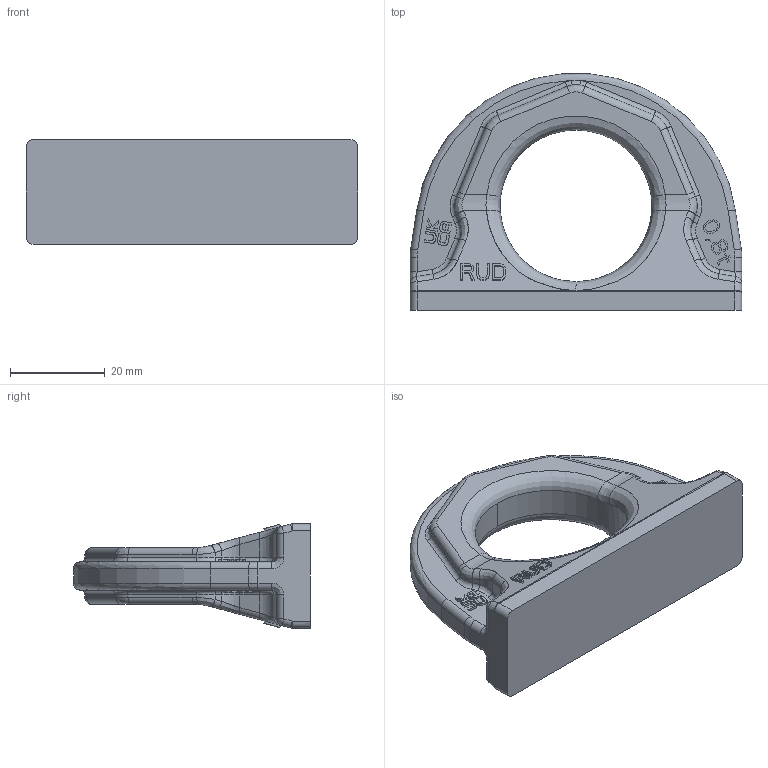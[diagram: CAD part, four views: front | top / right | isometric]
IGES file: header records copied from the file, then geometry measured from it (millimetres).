
Start section:  PTC IGES file: 001-m36281-p-1.igs
Global section: file name: 001-m36281-p-1.igs; native system: Creo Parametric by PTC Inc.; preprocessor: 2022162; author: Anja.Joas; organization: Unknown; date: 20221219.115649; units: millimetre
Bounding box: 70 x 49.89 x 22 mm (x, y, z)
Surface area: 8867.2 mm2 (no closed solid volume)
Topology: 0 solids, 0 shells, 638 faces, 3366 edges, 3366 vertices
Faces by surface type: bspline 494, revolution 144
